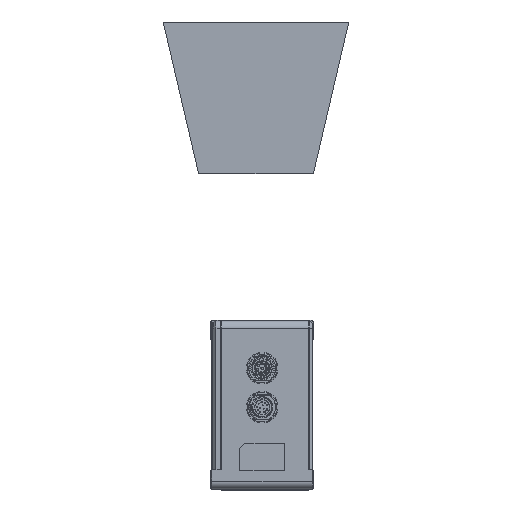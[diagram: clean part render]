
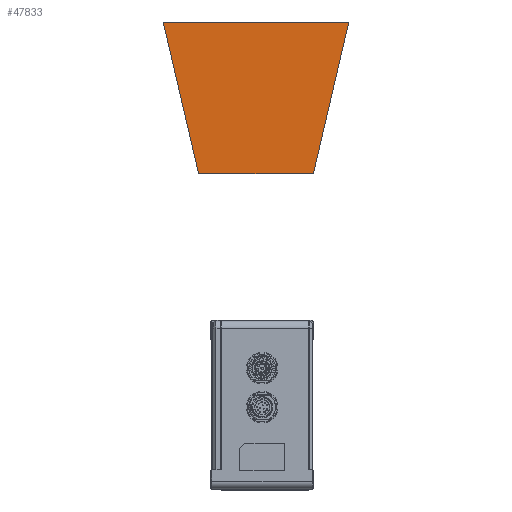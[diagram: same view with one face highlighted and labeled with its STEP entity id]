
A CAD part, left-side view. The second image highlights one B-rep face of the part: STEP entity #47833.
In plain terms, the highlighted planar face has unit normal (-1, 0, 0).
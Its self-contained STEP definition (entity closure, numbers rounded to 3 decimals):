
#47794=DIRECTION('',(0.,1.,0.));
#47795=VECTOR('',#47794,65.);
#47796=CARTESIAN_POINT('',(-605.475,32.818,
-194.858));
#47797=LINE('',#47796,#47795);
#47798=DIRECTION('',(0.,0.227,0.974));
#47799=VECTOR('',#47798,88.295);
#47800=CARTESIAN_POINT('',(-605.475,97.818,
-194.858));
#47801=LINE('',#47800,#47799);
#47802=DIRECTION('',(0.,-1.,0.));
#47803=VECTOR('',#47802,105.);
#47804=CARTESIAN_POINT('',(-605.475,117.818,
-108.858));
#47805=LINE('',#47804,#47803);
#47806=DIRECTION('',(0.,0.227,-0.974));
#47807=VECTOR('',#47806,88.295);
#47808=CARTESIAN_POINT('',(-605.475,12.818,
-108.858));
#47809=LINE('',#47808,#47807);
#47810=CARTESIAN_POINT('',(-605.475,97.818,
-194.858));
#47811=CARTESIAN_POINT('',(-605.475,32.818,
-194.858));
#47812=VERTEX_POINT('',#47810);
#47813=VERTEX_POINT('',#47811);
#47814=CARTESIAN_POINT('',(-605.475,12.818,
-108.858));
#47815=VERTEX_POINT('',#47814);
#47816=CARTESIAN_POINT('',(-605.475,117.818,
-108.858));
#47817=VERTEX_POINT('',#47816);
#47818=CARTESIAN_POINT('',(-605.475,0.,0.));
#47819=DIRECTION('',(-1.,0.,0.));
#47820=DIRECTION('',(0.,0.,1.));
#47821=AXIS2_PLACEMENT_3D('',#47818,#47819,#47820);
#47822=PLANE('',#47821);
#47824=ORIENTED_EDGE('',*,*,#47823,.T.);
#47826=ORIENTED_EDGE('',*,*,#47825,.T.);
#47828=ORIENTED_EDGE('',*,*,#47827,.T.);
#47830=ORIENTED_EDGE('',*,*,#47829,.T.);
#47831=EDGE_LOOP('',(#47824,#47826,#47828,#47830));
#47832=FACE_OUTER_BOUND('',#47831,.F.);
#47833=ADVANCED_FACE('',(#47832),#47822,.T.);
#47823=EDGE_CURVE('',#47813,#47812,#47797,.T.);
#47825=EDGE_CURVE('',#47812,#47817,#47801,.T.);
#47827=EDGE_CURVE('',#47817,#47815,#47805,.T.);
#47829=EDGE_CURVE('',#47815,#47813,#47809,.T.);
